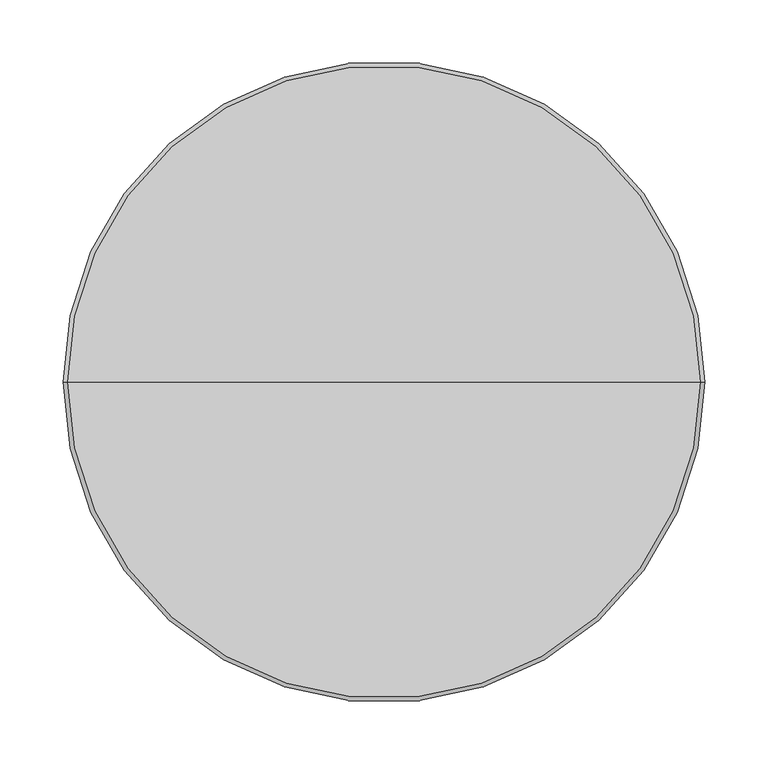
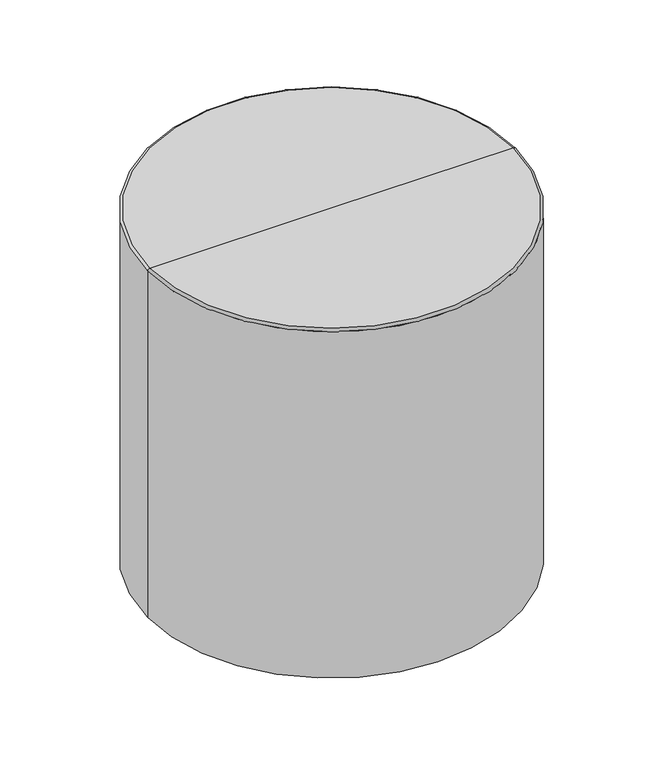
"""IFC4 building model written with IfcOpenShell, lengths in millimetres: furniture geometry, StanceHC-Drum_Table_Upholstered : DRT-20D-20-H."""

from ifc_helpers import new_model, si_unit, point, frame, frame_2d, origin, origin_with_axes, place, context, project, spatial, circle_curve, ellipse_curve, trimmed, segment, composite_curve, outline, extrude, source, transform, mapped, element, save
from ifc_brep_helpers import plane_surface, cylinder_surface, revolved_surface, advanced_brep


def furniture_11c77112(model_context):
    return source(origin(), model_context, "Body", "SolidModel", [
        extrude(outline(composite_curve([segment(trimmed(circle_curve(frame_2d((0.0, 192.9664845)), 12.7), [point((-12.7, 192.9664845))], [point((12.7, 192.9664845))], False, "CARTESIAN"), True, "CONTINUOUS"), segment(trimmed(circle_curve(frame_2d((0.0, 192.9664845)), 12.7), [point((12.7, 192.9664845))], [point((-12.7, 192.9664845))], False, "CARTESIAN"), True, "CONTINUOUS")], self_intersect=False)), origin_with_axes(), (0.0, 0.0, 1.0), 4.7625),
        extrude(outline(composite_curve([segment(trimmed(circle_curve(frame_2d((0.0, -192.9664845)), 12.7), [point((-12.7, -192.9664845))], [point((12.7, -192.9664845))], False, "CARTESIAN"), True, "CONTINUOUS"), segment(trimmed(circle_curve(frame_2d((0.0, -192.9664845)), 12.7), [point((12.7, -192.9664845))], [point((-12.7, -192.9664845))], False, "CARTESIAN"), True, "CONTINUOUS")], self_intersect=False)), origin_with_axes(), (0.0, 0.0, 1.0), 4.7625),
        extrude(outline(composite_curve([segment(trimmed(circle_curve(frame_2d((196.8496404, 0.0)), 12.7), [point((184.1496404, 0.0))], [point((209.5496404, 0.0))], False, "CARTESIAN"), True, "CONTINUOUS"), segment(trimmed(circle_curve(frame_2d((196.8496404, 0.0)), 12.7), [point((209.5496404, 0.0))], [point((184.1496404, 0.0))], False, "CARTESIAN"), True, "CONTINUOUS")], self_intersect=False)), origin_with_axes(), (0.0, 0.0, 1.0), 4.7625),
        extrude(outline(composite_curve([segment(trimmed(circle_curve(frame_2d((-196.8496404, 0.0)), 12.7), [point((-209.5496404, 0.0))], [point((-184.1496404, 0.0))], False, "CARTESIAN"), True, "CONTINUOUS"), segment(trimmed(circle_curve(frame_2d((-196.8496404, 0.0)), 12.7), [point((-184.1496404, 0.0))], [point((-209.5496404, 0.0))], False, "CARTESIAN"), True, "CONTINUOUS")], self_intersect=False)), origin_with_axes(), (0.0, 0.0, 1.0), 4.7625),
        advanced_brep(
        [(-254.0, 0.0, 4.7625), (254.0, 0.0, 4.7625), (0.0, 0.0, 4.7625), (-254.0, 0.0, 509.6389933), (254.0, 0.0, 509.6389933), (-250.8764933, 0.0, 512.7625), (250.8764933, 0.0, 512.7625), (0.0, 0.0, 512.7625)],
        [
            (0, 1, circle_curve(frame((0.0, 0.0, 4.7625), z_axis=(0.0, 0.0, -1.0), x_axis=(1.0, 0.0, 0.0)), 254.0)),
            (1, 2),
            (2, 0),
            (1, 0, circle_curve(frame((0.0, 0.0, 4.7625), z_axis=(0.0, 0.0, -1.0), x_axis=(1.0, 0.0, 0.0)), 254.0)),
            (3, 4, circle_curve(frame((0.0, 0.0, 509.6389933), z_axis=(0.0, 0.0, -1.0), x_axis=(1.0, 0.0, 0.0)), 254.0)),
            (4, 1),
            (0, 3),
            (4, 3, circle_curve(frame((0.0, 0.0, 509.6389933), z_axis=(0.0, 0.0, -1.0), x_axis=(1.0, 0.0, 0.0)), 254.0)),
            (5, 6, circle_curve(frame((0.0, 0.0, 512.7625), z_axis=(0.0, 0.0, -1.0), x_axis=(1.0, 0.0, 0.0)), 250.8764933)),
            (6, 4, circle_curve(frame((250.8764933, 0.0, 509.6389933), z_axis=(0.0, 1.0, 0.0), x_axis=(1.0, 0.0, 0.0)), 3.1235067)),
            (3, 5, circle_curve(frame((-250.8764933, 0.0, 509.6389933), z_axis=(0.0, 1.0, 0.0), x_axis=(-1.0, 0.0, 0.0)), 3.1235067)),
            (6, 5, circle_curve(frame((0.0, 0.0, 512.7625), z_axis=(0.0, 0.0, -1.0), x_axis=(1.0, 0.0, 0.0)), 250.8764933)),
            (7, 6),
            (5, 7),
        ],
        [
            plane_surface(frame((0.0, 0.0, 4.7625), z_axis=(0.0, 0.0, -1.0), x_axis=(1.0, 0.0, 0.0))),
            cylinder_surface(frame((0.0, 0.0, 608.0125), z_axis=(0.0, 0.0, 1.0), x_axis=(1.0, 0.0, 0.0)), 254.0),
            revolved_surface(trimmed(ellipse_curve(frame((250.8764933, 0.0, 509.6389933), z_axis=(0.0, -1.0, 0.0), x_axis=(1.0, 0.0, 0.0)), 3.1235067, 3.1235067), [point((254.0, 0.0, 509.6389933))], [point((250.8764933, 0.0, 512.7625))], True, "CARTESIAN"), (0.0, 0.0, 608.0125), (0.0, 0.0, 1.0)),
            plane_surface(frame((0.0, 0.0, 512.7625), z_axis=(0.0, 0.0, 1.0), x_axis=(1.0, 0.0, 0.0))),
        ],
        [
            (0, [[1, 2, 3]]),
            (0, [[4, -3, -2]]),
            (1, [[5, 6, -1, 7]]),
            (1, [[8, -7, -4, -6]]),
            (2, [[9, 10, -5, 11]]),
            (2, [[12, -11, -8, -10]]),
            (3, [[13, -9, 14]]),
            (3, [[-14, -12, -13]]),
        ],
    ),
    ])


if __name__ == "__main__":
    model = new_model("IFC4")
    model_context = context("Model", 3, world=origin())
    ifc_project = project(units=[si_unit("LENGTHUNIT", "METRE", prefix="MILLI")], contexts=[model_context])
    site = spatial("IfcSite", under=ifc_project)
    building = spatial("IfcBuilding", under=site)
    placement = place(None, origin())
    furniture_shape = furniture_11c77112(model_context)
    element("IfcFurniture", 1, ObjectType="StanceHC-Drum_Table_Upholstered : DRT-20D-20-H", at=placement, inside=building, context=model_context, shape_type="MappedRepresentation", body=[
        mapped(furniture_shape, transform((0.0, 0.0, 0.0), x_axis=(1.0, 0.0, 0.0), y_axis=(0.0, 1.0, 0.0), z_axis=(0.0, 0.0, 1.0))),
    ])
    save(model, "model.ifc")
